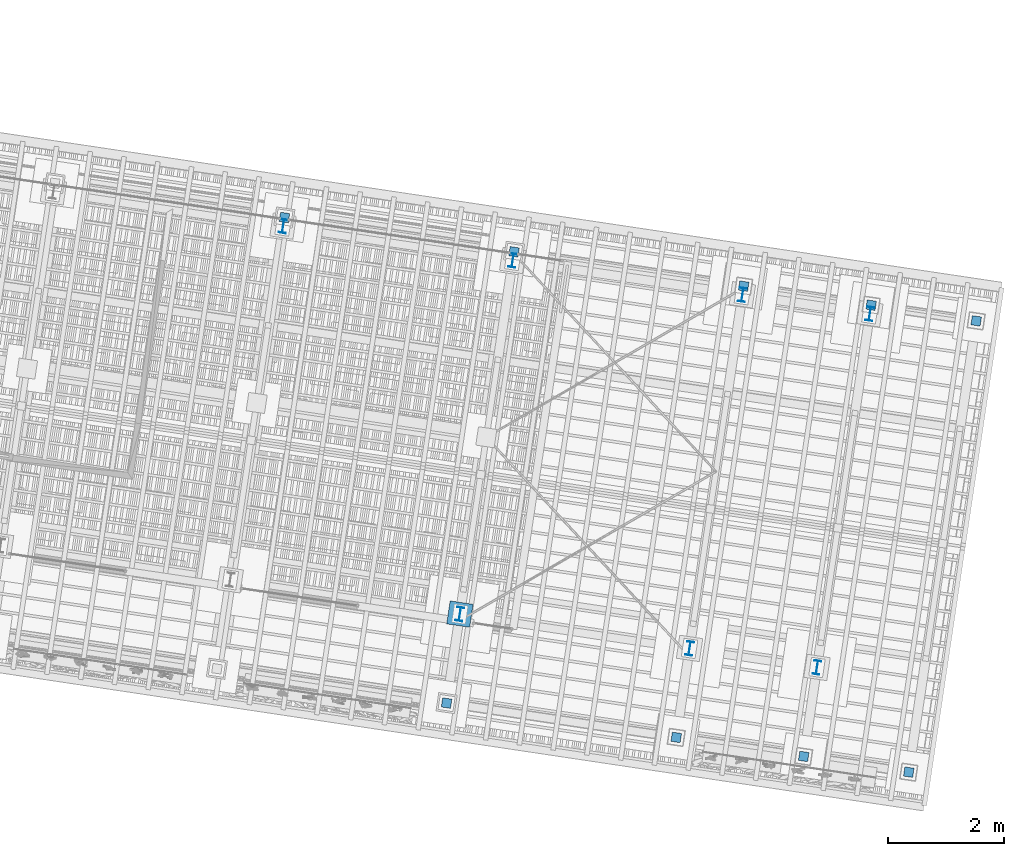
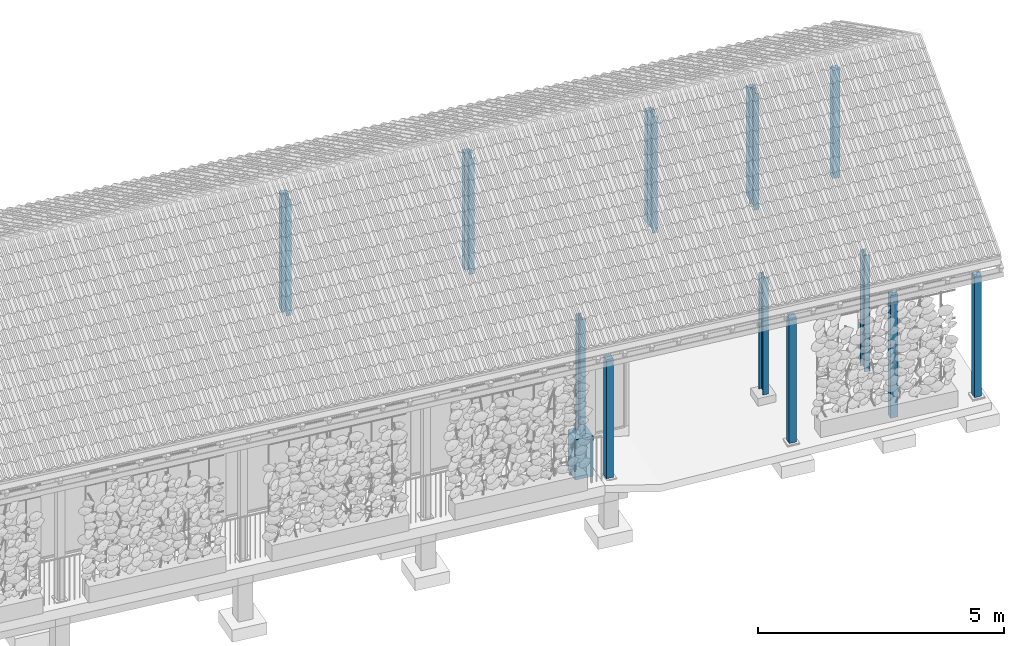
# One storey, part 4 of 131: 17 columns, 1 element without a shape of its own.
"""IFC4 building model written with IfcOpenShell, lengths in metres."""

import ifcopenshell
import ifcopenshell.guid

model = None  # the IFC model being written
_history = None  # IfcOwnerHistory: only IFC2X3 demands one
_inside = {}  # id of a spatial element -> (the spatial element, [elements in it])
_under = {}  # id of a project, library or spatial element -> (it, [spatial elements below it])
_declared = {}  # id of a project -> (the project, [libraries it declares])
_typed = {}  # id of a type object -> (the type object, [elements of that type])
_made_of = {}  # id of a material, layer set ... -> (it, [elements and type objects made of it])


def new_model(schema):
    """Start an empty IFC model of exactly this schema.

    Asked for "IFC4X3", IfcOpenShell would pick the latest addendum, in which some entities
    have other attributes; the version numbers below select the first issue.
    IFC2X3 requires an IfcOwnerHistory on every rooted entity: one is made here for all.
    """
    global model, _history
    if schema == "IFC4X3":
        model = ifcopenshell.file(schema_version=(4, 3, 0, 0))
    else:
        model = ifcopenshell.file(schema=schema)
    _inside.clear()
    _under.clear()
    _declared.clear()
    _typed.clear()
    _made_of.clear()
    _history = None
    if model.schema == "IFC2X3":
        org = make("IfcOrganization", Name="unknown")
        user = make(
            "IfcPersonAndOrganization",
            ThePerson=make("IfcPerson", FamilyName="unknown"),
            TheOrganization=org,
        )
        app = make(
            "IfcApplication",
            ApplicationDeveloper=org,
            Version="unknown",
            ApplicationFullName="unknown",
            ApplicationIdentifier="unknown",
        )
        _history = make(
            "IfcOwnerHistory",
            OwningUser=user,
            OwningApplication=app,
            ChangeAction="ADDED",
            CreationDate=0,
        )
    return model


def make(cls, **values):
    """One entity of the class cls with the attributes given. An attribute that is None is left unset."""
    return model.create_entity(
        cls, **{name: value for name, value in values.items() if value is not None}
    )


def rooted(cls, **values):
    """An entity with a GlobalId (a new one), such as an element, a storey or a relation."""
    return make(cls, GlobalId=ifcopenshell.guid.new(), OwnerHistory=_history, **values)


def si_unit(unit_type, name, prefix=None):
    """IfcSIUnit, for example si_unit("LENGTHUNIT", "METRE", prefix="MILLI")."""
    return make("IfcSIUnit", UnitType=unit_type, Prefix=prefix, Name=name)


def assignment(units):
    """IfcUnitAssignment: the units of a project."""
    return None if units is None else make("IfcUnitAssignment", Units=units)


def point(xyz):
    """IfcCartesianPoint."""
    return None if xyz is None else make("IfcCartesianPoint", Coordinates=xyz)


def direction(xyz):
    """IfcDirection."""
    return None if xyz is None else make("IfcDirection", DirectionRatios=xyz)


def frame(location, z_axis=None, x_axis=None):
    """IfcAxis2Placement3D, a coordinate frame: its origin and axes. An axis left out is left unset."""
    return make(
        "IfcAxis2Placement3D",
        Location=point(location),
        Axis=direction(z_axis),
        RefDirection=direction(x_axis),
    )


def origin_with_axes():
    """The frame at (0, 0, 0) with the z axis (0, 0, 1) and the x axis (1, 0, 0) written out."""
    return frame((0.0, 0.0, 0.0), z_axis=(0.0, 0.0, 1.0), x_axis=(1.0, 0.0, 0.0))


def place(relative_to, where):
    """IfcLocalPlacement: puts the frame where relative to a parent placement (None: the world)."""
    return make(
        "IfcLocalPlacement", PlacementRelTo=relative_to, RelativePlacement=where
    )


def context(
    kind, dimensions, precision=None, world=None, true_north=None, identifier=None
):
    """IfcGeometricRepresentationContext, for example the 3D "Model" context."""
    return make(
        "IfcGeometricRepresentationContext",
        ContextIdentifier=identifier,
        ContextType=kind,
        CoordinateSpaceDimension=dimensions,
        Precision=precision,
        WorldCoordinateSystem=world,
        TrueNorth=true_north,
    )


def subcontext(parent, identifier, kind, view, scale=None):
    """IfcGeometricRepresentationSubContext, for example "Body" below "Model"."""
    return make(
        "IfcGeometricRepresentationSubContext",
        ContextIdentifier=identifier,
        ContextType=kind,
        ParentContext=parent,
        TargetScale=scale,
        TargetView=view,
    )


def project(units=None, contexts=None):
    """IfcProject with its units and contexts."""
    return rooted(
        "IfcProject",
        Name="project",
        RepresentationContexts=contexts,
        UnitsInContext=assignment(units),
    )


def spatial(cls, under=None, at=None, **own):
    """A site, building, storey or space (cls), placed at a placement, below another one or the project."""
    s = rooted(cls, ObjectPlacement=at, **own)
    if under is not None:
        _under.setdefault(under.id(), (under, []))[1].append(s)
    return s


def polyline(points):
    """IfcPolyline through the points."""
    return make("IfcPolyline", Points=[point(p) for p in points])


def profile(cls, at=None, kind="AREA", **sizes):
    """A parametric profile (cls). Its sizes go by their IFC names, for example OverallWidth=200.0."""
    return make(cls, ProfileType=kind, Position=at, **sizes)


def rectangle(**sizes):
    """IfcRectangleProfileDef."""
    return profile("IfcRectangleProfileDef", **sizes)


def i_section(**sizes):
    """IfcIShapeProfileDef."""
    return profile("IfcIShapeProfileDef", **sizes)


def outline(outer, holes=None, kind="AREA"):
    """IfcArbitraryClosedProfileDef: a profile drawn as a closed curve; with holes, ...WithVoids."""
    if holes is None:
        return make("IfcArbitraryClosedProfileDef", ProfileType=kind, OuterCurve=outer)
    return make(
        "IfcArbitraryProfileDefWithVoids",
        ProfileType=kind,
        OuterCurve=outer,
        InnerCurves=holes,
    )


def extrude(swept, where, along, depth):
    """IfcExtrudedAreaSolid: the profile swept, set in the frame where, extruded along a direction by depth."""
    return make(
        "IfcExtrudedAreaSolid",
        SweptArea=swept,
        Position=where,
        ExtrudedDirection=direction(along),
        Depth=depth,
    )


def shape(context_of_items, identifier, shape_type, items):
    """IfcShapeRepresentation: the items that make up one representation, for example the "Body"."""
    return make(
        "IfcShapeRepresentation",
        ContextOfItems=context_of_items,
        RepresentationIdentifier=identifier,
        RepresentationType=shape_type,
        Items=items,
    )


def material(Name=None, Category=None):
    """IfcMaterial."""
    return make("IfcMaterial", Name=Name, Category=Category)


def material_profile(
    of_material, cross_section, Name=None, Category=None, Priority=None
):
    """IfcMaterialProfile: a cross section and its material."""
    return make(
        "IfcMaterialProfile",
        Name=Name,
        Material=of_material,
        Profile=cross_section,
        Priority=Priority,
        Category=Category,
    )


def profile_set(profiles, Name=None, composite=None):
    """IfcMaterialProfileSet."""
    return make(
        "IfcMaterialProfileSet",
        Name=Name,
        MaterialProfiles=profiles,
        CompositeProfile=composite,
    )


def profile_usage(for_profile_set, cardinal=None, extent=None):
    """IfcMaterialProfileSetUsage: how a profile set lies along its element."""
    return make(
        "IfcMaterialProfileSetUsage",
        ForProfileSet=for_profile_set,
        CardinalPoint=cardinal,
        ReferenceExtent=extent,
    )


def made_of(thing, what):
    """Note that an element or type object is made of a material, layer set ...; save() writes the relation."""
    if what is not None:
        _made_of.setdefault(what.id(), (what, []))[1].append(thing)
    return thing


def type_object(cls, material=None, **own):
    """A type object (cls), such as IfcWallType, which elements share."""
    return made_of(rooted(cls, **own), material)


def element(
    cls,
    number,
    at=None,
    inside=None,
    cuts=None,
    type_object=None,
    material=None,
    context=None,
    identifier="Body",
    shape_type=None,
    held_by="IfcProductDefinitionShape",
    body=None,
    shapes=None,
    **own,
):
    """One element of the class cls, such as IfcWall. Its Tag is "e" and its number.

    at: its placement. inside: the storey or other place that contains it. cuts: it is an
    opening in that element (IfcRelVoidsElement). A single representation is given by context,
    identifier, shape_type and body (its items); several are given by shapes. held_by: the class
    of the entity that holds the representations. save() writes the other relations.
    """
    e = rooted(cls, Tag="e%d" % number, ObjectPlacement=at, **own)
    if body is not None:
        shapes = [shape(context, identifier, shape_type, body)]
    if shapes is not None:
        e.Representation = make(held_by, Representations=shapes)
    if inside is not None:
        _inside.setdefault(inside.id(), (inside, []))[1].append(e)
    if cuts is not None:
        rooted(
            "IfcRelVoidsElement", RelatingBuildingElement=cuts, RelatedOpeningElement=e
        )
    if type_object is not None:
        _typed.setdefault(type_object.id(), (type_object, []))[1].append(e)
    return made_of(e, material)


def aggregate(whole, parts):
    """IfcRelAggregates: a whole, such as a stair, and the parts it consists of."""
    return rooted("IfcRelAggregates", RelatingObject=whole, RelatedObjects=parts)


def save(model, path):
    """Write the relations noted so far, then the file.

    IfcRelAggregates (storeys below a building ...), IfcRelContainedInSpatialStructure (elements
    in a storey), IfcRelDefinesByType, IfcRelAssociatesMaterial and IfcRelDeclares: one each for
    every whole, place, type object, material and project.
    """
    for whole, parts in _under.values():
        aggregate(whole, parts)
    for where, things in _inside.values():
        rooted(
            "IfcRelContainedInSpatialStructure",
            RelatedElements=things,
            RelatingStructure=where,
        )
    for kind, things in _typed.values():
        rooted("IfcRelDefinesByType", RelatedObjects=things, RelatingType=kind)
    for what, things in _made_of.values():
        rooted("IfcRelAssociatesMaterial", RelatedObjects=things, RelatingMaterial=what)
    for by, libraries in _declared.values():
        rooted("IfcRelDeclares", RelatingContext=by, RelatedDefinitions=libraries)
    model.write(path)


model = new_model("IFC4")

# Units and contexts
model_context = context("Model", 3, precision=1e-05, world=origin_with_axes(), true_north=direction((0.0, 1.0)))
body_context = subcontext(model_context, "Body", "Model", "MODEL_VIEW")
ifc_project = project(units=[si_unit("AREAUNIT", "SQUARE_METRE"), si_unit("VOLUMEUNIT", "CUBIC_METRE"), si_unit("LENGTHUNIT", "METRE")], contexts=[model_context])

# Site, building, storey
site_placement = place(None, origin_with_axes())
site = spatial("IfcSite", under=ifc_project, at=site_placement, Name="Lares · Rua das Mercês · artigo 4771")
building_placement = place(site_placement, frame((15.0, 9.7, 14.65), z_axis=(0.0, 0.0, 1.0), x_axis=(0.989015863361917, -0.147809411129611, 0.0)))
building = spatial("IfcBuilding", under=site, at=building_placement, Name="Casa Sobreposta")
storey_placement = place(building_placement, origin_with_axes())
storey = spatial("IfcBuildingStorey", under=building, at=storey_placement, Name="00 · Habitação e estacionamento", Elevation=14.65)

# Columns
ifc_material_1 = material(Name="Aço pintado / Stahl lackiert", Category="steel")
ifc_material_profile_1 = material_profile(ifc_material_1, i_section(OverallWidth=0.12, OverallDepth=0.24, WebThickness=0.0062, FlangeThickness=0.0098))
ifc_profile_set_1 = profile_set([ifc_material_profile_1], Name="IPE240")
ifc_profile_usage_1 = profile_usage(ifc_profile_set_1)
column_type_1 = type_object("IfcColumnType", Name="IPE240 / steel", PredefinedType="NOTDEFINED", material=ifc_profile_set_1)
column_1_placement = place(storey_placement, frame((20.0, 6.28, 0.0), z_axis=(0.0, 0.0, 1.0), x_axis=(1.0, 0.0, 0.0)))
element("IfcColumn", 1, at=column_1_placement, inside=storey, type_object=column_type_1, material=ifc_profile_usage_1, Name="Casa térrea · pilar metálico de referência", context=body_context, shape_type="SweptSolid", body=[
    extrude(i_section(OverallWidth=0.12, OverallDepth=0.24, WebThickness=0.0062, FlangeThickness=0.0098), origin_with_axes(), (0.0, 0.0, 1.0), 2.89),
])
ifc_profile_usage_2 = profile_usage(ifc_profile_set_1)
column_2_placement = place(storey_placement, frame((24.0, 0.12, 0.0), z_axis=(0.0, 0.0, 1.0), x_axis=(1.0, 0.0, 0.0)))
element("IfcColumn", 2, at=column_2_placement, inside=storey, type_object=column_type_1, material=ifc_profile_usage_2, Name="Casa térrea · pilar metálico de referência", context=body_context, shape_type="SweptSolid", body=[
    extrude(i_section(OverallWidth=0.12, OverallDepth=0.24, WebThickness=0.0062, FlangeThickness=0.0098), origin_with_axes(), (0.0, 0.0, 1.0), 2.89),
])
ifc_profile_usage_3 = profile_usage(ifc_profile_set_1)
column_3_placement = place(storey_placement, frame((24.0, 6.28, 0.0), z_axis=(0.0, 0.0, 1.0), x_axis=(1.0, 0.0, 0.0)))
element("IfcColumn", 3, at=column_3_placement, inside=storey, type_object=column_type_1, material=ifc_profile_usage_3, Name="Casa térrea · pilar metálico de referência", context=body_context, shape_type="SweptSolid", body=[
    extrude(i_section(OverallWidth=0.12, OverallDepth=0.24, WebThickness=0.0062, FlangeThickness=0.0098), origin_with_axes(), (0.0, 0.0, 1.0), 2.89),
])
ifc_profile_usage_4 = profile_usage(ifc_profile_set_1)
column_4_placement = place(storey_placement, frame((28.0, 0.12, 0.0), z_axis=(0.0, 0.0, 1.0), x_axis=(1.0, 0.0, 0.0)))
element("IfcColumn", 4, at=column_4_placement, inside=storey, type_object=column_type_1, material=ifc_profile_usage_4, Name="Casa térrea · pilar metálico de referência", context=body_context, shape_type="SweptSolid", body=[
    extrude(i_section(OverallWidth=0.12, OverallDepth=0.24, WebThickness=0.0062, FlangeThickness=0.0098), origin_with_axes(), (0.0, 0.0, 1.0), 2.89),
])
ifc_profile_usage_5 = profile_usage(ifc_profile_set_1)
column_5_placement = place(storey_placement, frame((28.0, 6.28, 0.0), z_axis=(0.0, 0.0, 1.0), x_axis=(1.0, 0.0, 0.0)))
element("IfcColumn", 5, at=column_5_placement, inside=storey, type_object=column_type_1, material=ifc_profile_usage_5, Name="Casa térrea · pilar metálico de referência", context=body_context, shape_type="SweptSolid", body=[
    extrude(i_section(OverallWidth=0.12, OverallDepth=0.24, WebThickness=0.0062, FlangeThickness=0.0098), origin_with_axes(), (0.0, 0.0, 1.0), 2.89),
])
ifc_profile_usage_6 = profile_usage(ifc_profile_set_1)
column_6_placement = place(storey_placement, frame((30.22, 0.12, 0.0), z_axis=(0.0, 0.0, 1.0), x_axis=(1.0, 0.0, 0.0)))
element("IfcColumn", 6, at=column_6_placement, inside=storey, type_object=column_type_1, material=ifc_profile_usage_6, Name="Casa térrea · pilar metálico de referência", context=body_context, shape_type="SweptSolid", body=[
    extrude(i_section(OverallWidth=0.12, OverallDepth=0.24, WebThickness=0.0062, FlangeThickness=0.0098), origin_with_axes(), (0.0, 0.0, 1.0), 2.89),
])
ifc_profile_usage_7 = profile_usage(ifc_profile_set_1)
column_7_placement = place(storey_placement, frame((30.22, 6.28, 0.0), z_axis=(0.0, 0.0, 1.0), x_axis=(1.0, 0.0, 0.0)))
element("IfcColumn", 7, at=column_7_placement, inside=storey, type_object=column_type_1, material=ifc_profile_usage_7, Name="Casa térrea · pilar metálico de referência", context=body_context, shape_type="SweptSolid", body=[
    extrude(i_section(OverallWidth=0.12, OverallDepth=0.24, WebThickness=0.0062, FlangeThickness=0.0098), origin_with_axes(), (0.0, 0.0, 1.0), 2.89),
])

# Assembly, columns
assembly_placement = place(storey_placement, origin_with_axes())
assembly = element("IfcElementAssembly", 8, at=assembly_placement, inside=storey, Name="Varanda coberta · continuação integral da cobertura", ObjectType="COVERED_PODIUM_BALCONY", PredefinedType="USERDEFINED")
ifc_material_2 = material(Name="Madeira / Bauholz", Category="wood")
ifc_material_profile_2 = material_profile(ifc_material_2, rectangle(XDim=0.16, YDim=0.16))
ifc_profile_set_2 = profile_set([ifc_material_profile_2], Name="TIMBER0.160x0.160")
ifc_profile_usage_8 = profile_usage(ifc_profile_set_2)
column_type_2 = type_object("IfcColumnType", Name="TIMBER0.160x0.160 / timber", PredefinedType="NOTDEFINED", material=ifc_profile_set_2)
column_8_placement = place(assembly_placement, frame((20.0, 6.43, -0.015), z_axis=(0.0, 0.0, 1.0), x_axis=(1.0, 0.0, 0.0)))
column_8 = element("IfcColumn", 9, at=column_8_placement, type_object=column_type_2, material=ifc_profile_usage_8, Name="Varanda coberta · pilar", context=body_context, shape_type="SweptSolid", body=[
    extrude(rectangle(XDim=0.16, YDim=0.16), origin_with_axes(), (0.0, 0.0, 1.0), 2.905),
])
ifc_profile_usage_9 = profile_usage(ifc_profile_set_2)
column_9_placement = place(assembly_placement, frame((24.0, -1.43, -0.0645950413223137), z_axis=(0.0, 0.0, 1.0), x_axis=(1.0, 0.0, 0.0)))
column_9 = element("IfcColumn", 10, at=column_9_placement, type_object=column_type_2, material=ifc_profile_usage_9, Name="Varanda coberta · pilar", context=body_context, shape_type="SweptSolid", body=[
    extrude(rectangle(XDim=0.16, YDim=0.16), origin_with_axes(), (0.0, 0.0, 1.0), 2.95459504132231),
])
ifc_profile_usage_10 = profile_usage(ifc_profile_set_2)
column_10_placement = place(assembly_placement, frame((24.0, 6.43, -0.0126280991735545), z_axis=(0.0, 0.0, 1.0), x_axis=(1.0, 0.0, 0.0)))
column_10 = element("IfcColumn", 11, at=column_10_placement, type_object=column_type_2, material=ifc_profile_usage_10, Name="Varanda coberta · pilar", context=body_context, shape_type="SweptSolid", body=[
    extrude(rectangle(XDim=0.16, YDim=0.16), origin_with_axes(), (0.0, 0.0, 1.0), 2.90262809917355),
])
ifc_profile_usage_11 = profile_usage(ifc_profile_set_2)
column_11_placement = place(assembly_placement, frame((28.0, -1.43, -0.21505), z_axis=(0.0, 0.0, 1.0), x_axis=(1.0, 0.0, 0.0)))
column_11 = element("IfcColumn", 12, at=column_11_placement, type_object=column_type_2, material=ifc_profile_usage_11, Name="Varanda coberta · pilar", context=body_context, shape_type="SweptSolid", body=[
    extrude(rectangle(XDim=0.16, YDim=0.16), origin_with_axes(), (0.0, 0.0, 1.0), 3.10505),
])
ifc_profile_usage_12 = profile_usage(ifc_profile_set_2)
column_12_placement = place(assembly_placement, frame((28.0, 6.43, 0.0993500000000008), z_axis=(0.0, 0.0, 1.0), x_axis=(1.0, 0.0, 0.0)))
column_12 = element("IfcColumn", 13, at=column_12_placement, type_object=column_type_2, material=ifc_profile_usage_12, Name="Varanda coberta · pilar", context=body_context, shape_type="SweptSolid", body=[
    extrude(rectangle(XDim=0.16, YDim=0.16), origin_with_axes(), (0.0, 0.0, 1.0), 2.79065),
])
ifc_profile_usage_13 = profile_usage(ifc_profile_set_2)
column_13_placement = place(assembly_placement, frame((30.22, -1.43, -0.15955), z_axis=(0.0, 0.0, 1.0), x_axis=(1.0, 0.0, 0.0)))
column_13 = element("IfcColumn", 14, at=column_13_placement, type_object=column_type_2, material=ifc_profile_usage_13, Name="Varanda coberta · pilar", context=body_context, shape_type="SweptSolid", body=[
    extrude(rectangle(XDim=0.16, YDim=0.16), origin_with_axes(), (0.0, 0.0, 1.0), 3.04955),
])
ifc_profile_usage_14 = profile_usage(ifc_profile_set_2)
column_14_placement = place(assembly_placement, frame((30.22, 6.43, 0.154850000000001), z_axis=(0.0, 0.0, 1.0), x_axis=(1.0, 0.0, 0.0)))
column_14 = element("IfcColumn", 15, at=column_14_placement, type_object=column_type_2, material=ifc_profile_usage_14, Name="Varanda coberta · pilar", context=body_context, shape_type="SweptSolid", body=[
    extrude(rectangle(XDim=0.16, YDim=0.16), origin_with_axes(), (0.0, 0.0, 1.0), 2.73515),
])
ifc_profile_usage_15 = profile_usage(ifc_profile_set_2)
column_15_placement = place(assembly_placement, frame((32.05, -1.43, -0.1138), z_axis=(0.0, 0.0, 1.0), x_axis=(1.0, 0.0, 0.0)))
column_15 = element("IfcColumn", 16, at=column_15_placement, type_object=column_type_2, material=ifc_profile_usage_15, Name="Varanda coberta · pilar", context=body_context, shape_type="SweptSolid", body=[
    extrude(rectangle(XDim=0.16, YDim=0.16), origin_with_axes(), (0.0, 0.0, 1.0), 3.0038),
])
ifc_profile_usage_16 = profile_usage(ifc_profile_set_2)
column_16_placement = place(assembly_placement, frame((32.05, 6.43, 0.200600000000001), z_axis=(0.0, 0.0, 1.0), x_axis=(1.0, 0.0, 0.0)))
column_16 = element("IfcColumn", 17, at=column_16_placement, type_object=column_type_2, material=ifc_profile_usage_16, Name="Varanda coberta · pilar", context=body_context, shape_type="SweptSolid", body=[
    extrude(rectangle(XDim=0.16, YDim=0.16), origin_with_axes(), (0.0, 0.0, 1.0), 2.6894),
])
aggregate(assembly, [column_8, column_9, column_10, column_11, column_12, column_13, column_14, column_15, column_16])

# Column
ifc_material_3 = material(Name="Betão armado / Stahlbeton", Category="concrete")
column_17_placement = place(storey_placement, frame((0.0, 0.0, -1.0), z_axis=(0.0, 0.0, 1.0), x_axis=(1.0, 0.0, 0.0)))
element("IfcColumn", 18, at=column_17_placement, inside=storey, material=ifc_material_3, Name="Casa térrea · pedestal", context=body_context, shape_type="SweptSolid", body=[
    extrude(outline(polyline([(24.2, -0.08), (24.2, 0.32), (23.8, 0.32), (23.8, -0.08), (24.2, -0.08)])), origin_with_axes(), (0.0, 0.0, 1.0), 1.0),
])

save(model, "model.ifc")
